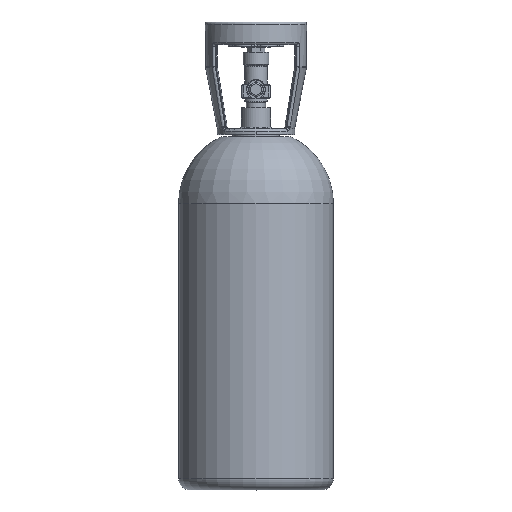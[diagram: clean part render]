
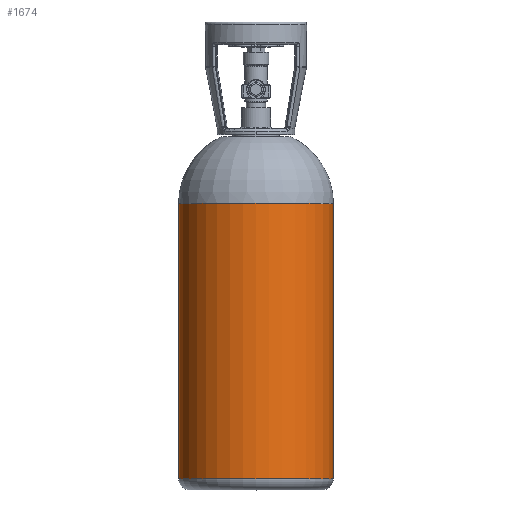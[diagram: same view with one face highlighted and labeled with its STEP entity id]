
A CAD part, top view. The second image highlights one B-rep face of the part: STEP entity #1674.
In plain terms, the highlighted cylindrical face has radius 87.503 mm (diameter 175.006 mm), a partial arc.
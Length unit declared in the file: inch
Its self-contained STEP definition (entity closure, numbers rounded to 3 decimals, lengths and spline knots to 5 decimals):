
#27 = EDGE_CURVE ( 'NONE', #7662, #14439, #802, .T. ) ;
#273 = DIRECTION ( 'NONE',  ( 0., 1., 0. ) ) ;
#777 = DIRECTION ( 'NONE',  ( -1., 0., 0. ) ) ;
#802 = LINE ( 'NONE', #5516, #5020 ) ;
#1052 = AXIS2_PLACEMENT_3D ( 'NONE', #13300, #273, #12372 ) ;
#1229 = DIRECTION ( 'NONE',  ( 0., 1., 0. ) ) ;
#1238 = ORIENTED_EDGE ( 'NONE', *, *, #6001, .F. ) ;
#1674 = ADVANCED_FACE ( 'NONE', ( #14959 ), #2939, .T. ) ;
#1736 = EDGE_CURVE ( 'NONE', #2124, #6373, #6947, .T. ) ;
#1784 = VECTOR ( 'NONE', #1229, 39.37008 ) ;
#2124 = VERTEX_POINT ( 'NONE', #8233 ) ;
#2613 = CIRCLE ( 'NONE', #14679, 3.445 ) ;
#2939 = CYLINDRICAL_SURFACE ( 'NONE', #10862, 3.445 ) ;
#3953 = DIRECTION ( 'NONE',  ( 0., 1., 0. ) ) ;
#4221 = EDGE_LOOP ( 'NONE', ( #8763, #10811, #1238, #13100 ) ) ;
#4350 = DIRECTION ( 'NONE',  ( 0., 1., 0. ) ) ;
#5020 = VECTOR ( 'NONE', #4350, 39.37008 ) ;
#5113 = CARTESIAN_POINT ( 'NONE',  ( 0., 8.73488, 0. ) ) ;
#5516 = CARTESIAN_POINT ( 'NONE',  ( -3.445, 9., 0. ) ) ;
#6001 = EDGE_CURVE ( 'NONE', #14439, #6373, #2613, .T. ) ;
#6197 = DIRECTION ( 'NONE',  ( -1., 0., 0. ) ) ;
#6373 = VERTEX_POINT ( 'NONE', #11819 ) ;
#6947 = LINE ( 'NONE', #11788, #1784 ) ;
#6958 = CIRCLE ( 'NONE', #1052, 3.445 ) ;
#7633 = DIRECTION ( 'NONE',  ( 0., 1., 0. ) ) ;
#7662 = VERTEX_POINT ( 'NONE', #10801 ) ;
#8233 = CARTESIAN_POINT ( 'NONE',  ( 3.445, -3.5, 0. ) ) ;
#8763 = ORIENTED_EDGE ( 'NONE', *, *, #14417, .T. ) ;
#9898 = CARTESIAN_POINT ( 'NONE',  ( -3.445, 8.73488, 0. ) ) ;
#10801 = CARTESIAN_POINT ( 'NONE',  ( -3.445, -3.5, 0. ) ) ;
#10811 = ORIENTED_EDGE ( 'NONE', *, *, #1736, .T. ) ;
#10862 = AXIS2_PLACEMENT_3D ( 'NONE', #12413, #7633, #777 ) ;
#11788 = CARTESIAN_POINT ( 'NONE',  ( 3.445, 9., 0. ) ) ;
#11819 = CARTESIAN_POINT ( 'NONE',  ( 3.445, 8.73488, 0. ) ) ;
#12372 = DIRECTION ( 'NONE',  ( -1., 0., 0. ) ) ;
#12413 = CARTESIAN_POINT ( 'NONE',  ( 0., 9., 0. ) ) ;
#13100 = ORIENTED_EDGE ( 'NONE', *, *, #27, .F. ) ;
#13300 = CARTESIAN_POINT ( 'NONE',  ( 0., -3.5, 0. ) ) ;
#14417 = EDGE_CURVE ( 'NONE', #7662, #2124, #6958, .T. ) ;
#14439 = VERTEX_POINT ( 'NONE', #9898 ) ;
#14679 = AXIS2_PLACEMENT_3D ( 'NONE', #5113, #3953, #6197 ) ;
#14959 = FACE_OUTER_BOUND ( 'NONE', #4221, .T. ) ;
